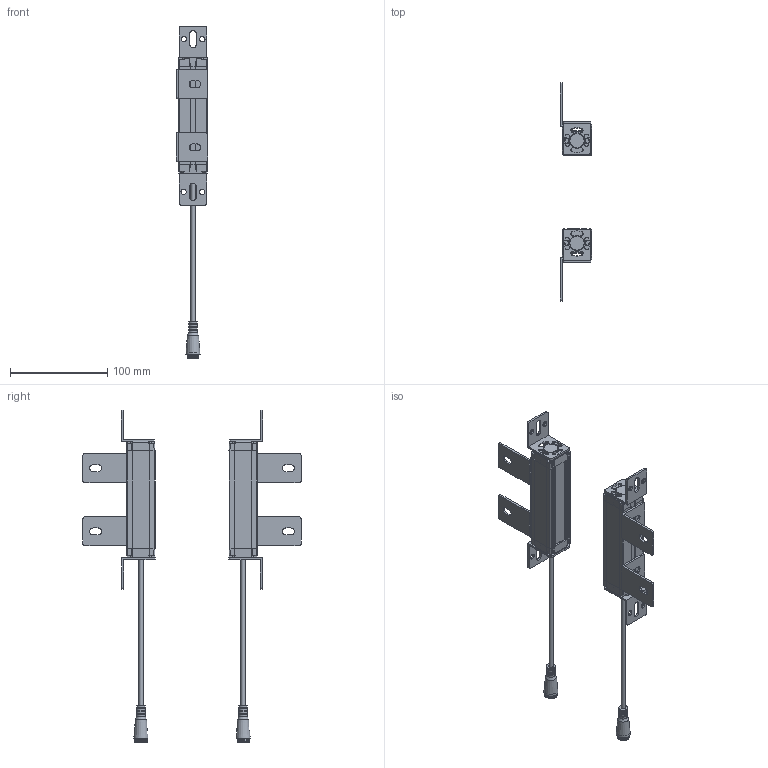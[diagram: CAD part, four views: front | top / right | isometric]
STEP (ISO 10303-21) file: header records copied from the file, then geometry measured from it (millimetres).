
FILE_DESCRIPTION(/* description */ (''),/* implementation_level */ '2;1');
FILE_NAME(/* name */ '1010（29x30）.stp',/* time_stamp */ '2023-04-28T15:49:59+08:00',/* author */ (''),/* organization */ (''),/* preprocessor_version */ 'ST-DEVELOPER v16.7',/* originating_system */ 'SIEMENS PLM Software NX 12.0',/* authorisation */ '');
FILE_SCHEMA (('AUTOMOTIVE_DESIGN { 1 0 10303 214 3 1 1 1 }'));
Products named in the file (1): 7220（29x30）_stp
Bounding box: 32.03 x 223.99 x 341 mm (x, y, z)
Volume: 114714.6 mm3; surface area: 123388 mm2
Topology: 34 solids, 34 shells, 1610 faces, 4267 edges, 2771 vertices
Faces by surface type: plane 750, cylinder 648, bspline 88, sphere 36, cone 36, torus 32, extrusion 20
Full cylindrical faces by diameter (mm): 1.533 x6, 4.4 x4, 9 x2, 12.5 x2
Entity records: 56427 total; most frequent: CARTESIAN_POINT 16064, DIRECTION 8330, ORIENTED_EDGE 8324, EDGE_CURVE 4162, AXIS2_PLACEMENT_3D 2918, VERTEX_POINT 2696, VECTOR 2494, LINE 2474
